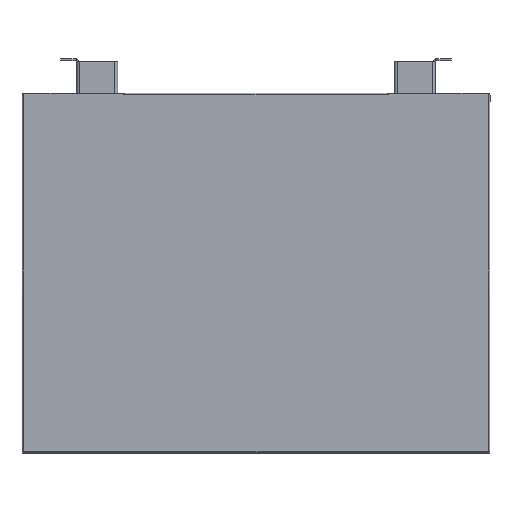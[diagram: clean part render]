
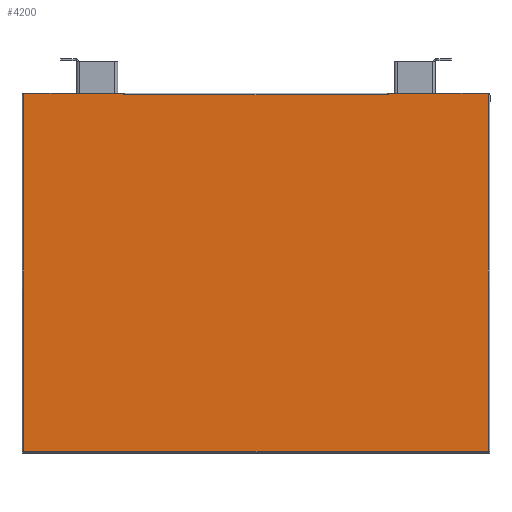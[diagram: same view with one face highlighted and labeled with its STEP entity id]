
A CAD part, top view. The second image highlights one B-rep face of the part: STEP entity #4200.
In plain terms, the highlighted planar face has unit normal (0, 0, 1) as drawn and (0, -1, 0) by its records, which use the part's own axes.
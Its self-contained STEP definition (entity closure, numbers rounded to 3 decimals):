
#169=LINE('',#6591,#559);
#170=LINE('',#6593,#560);
#171=LINE('',#6595,#561);
#172=LINE('',#6597,#562);
#173=LINE('',#6599,#563);
#174=LINE('',#6601,#564);
#175=LINE('',#6603,#565);
#176=LINE('',#6605,#566);
#177=LINE('',#6607,#567);
#178=LINE('',#6609,#568);
#179=LINE('',#6611,#569);
#180=LINE('',#6613,#570);
#559=VECTOR('',#5188,1000.);
#560=VECTOR('',#5191,1000.);
#561=VECTOR('',#5192,1000.);
#562=VECTOR('',#5193,1000.);
#563=VECTOR('',#5194,1000.);
#564=VECTOR('',#5195,1000.);
#565=VECTOR('',#5196,1000.);
#566=VECTOR('',#5197,1000.);
#567=VECTOR('',#5198,1000.);
#568=VECTOR('',#5199,1000.);
#569=VECTOR('',#5200,1000.);
#570=VECTOR('',#5201,1000.);
#957=PLANE('',#4530);
#1411=ORIENTED_EDGE('',*,*,#2418,.F.);
#1412=ORIENTED_EDGE('',*,*,#2419,.T.);
#1413=ORIENTED_EDGE('',*,*,#2420,.T.);
#1414=ORIENTED_EDGE('',*,*,#2421,.T.);
#1415=ORIENTED_EDGE('',*,*,#2422,.T.);
#1416=ORIENTED_EDGE('',*,*,#2423,.T.);
#1417=ORIENTED_EDGE('',*,*,#2424,.T.);
#1418=ORIENTED_EDGE('',*,*,#2425,.T.);
#1419=ORIENTED_EDGE('',*,*,#2426,.T.);
#1420=ORIENTED_EDGE('',*,*,#2427,.F.);
#1421=ORIENTED_EDGE('',*,*,#2428,.F.);
#1422=ORIENTED_EDGE('',*,*,#2429,.T.);
#2418=EDGE_CURVE('',#2954,#2952,#169,.T.);
#2419=EDGE_CURVE('',#2954,#2955,#170,.T.);
#2420=EDGE_CURVE('',#2955,#2956,#171,.T.);
#2421=EDGE_CURVE('',#2956,#2957,#172,.T.);
#2422=EDGE_CURVE('',#2957,#2958,#173,.T.);
#2423=EDGE_CURVE('',#2958,#2959,#174,.T.);
#2424=EDGE_CURVE('',#2959,#2960,#175,.T.);
#2425=EDGE_CURVE('',#2960,#2961,#176,.T.);
#2426=EDGE_CURVE('',#2961,#2962,#177,.T.);
#2427=EDGE_CURVE('',#2963,#2962,#178,.T.);
#2428=EDGE_CURVE('',#2964,#2963,#179,.T.);
#2429=EDGE_CURVE('',#2964,#2952,#180,.T.);
#2952=VERTEX_POINT('',#6586);
#2954=VERTEX_POINT('',#6590);
#2955=VERTEX_POINT('',#6594);
#2956=VERTEX_POINT('',#6596);
#2957=VERTEX_POINT('',#6598);
#2958=VERTEX_POINT('',#6600);
#2959=VERTEX_POINT('',#6602);
#2960=VERTEX_POINT('',#6604);
#2961=VERTEX_POINT('',#6606);
#2962=VERTEX_POINT('',#6608);
#2963=VERTEX_POINT('',#6610);
#2964=VERTEX_POINT('',#6612);
#3486=EDGE_LOOP('',(#1411,#1412,#1413,#1414,#1415,#1416,#1417,#1418,#1419,
#1420,#1421,#1422));
#3778=FACE_BOUND('',#3486,.T.);
#4200=ADVANCED_FACE('',(#3778),#957,.T.);
#4530=AXIS2_PLACEMENT_3D('',#6592,#5189,#5190);
#5188=DIRECTION('',(-1.,0.,0.));
#5189=DIRECTION('',(0.,-1.,0.));
#5190=DIRECTION('',(0.,0.,-1.));
#5191=DIRECTION('',(0.,0.,-1.));
#5192=DIRECTION('',(1.,0.,0.));
#5193=DIRECTION('',(0.,0.,1.));
#5194=DIRECTION('',(0.,0.,1.));
#5195=DIRECTION('',(-1.,0.,0.));
#5196=DIRECTION('',(0.,0.,-1.));
#5197=DIRECTION('',(0.,0.,-1.));
#5198=DIRECTION('',(1.,0.,0.));
#5199=DIRECTION('',(0.,0.,-1.));
#5200=DIRECTION('',(-1.,0.,0.));
#5201=DIRECTION('',(1.,0.,0.));
#6586=CARTESIAN_POINT('',(161.925,0.,-218.973));
#6590=CARTESIAN_POINT('',(163.449,0.,-218.973));
#6591=CARTESIAN_POINT('',(-163.449,0.,-218.973));
#6592=CARTESIAN_POINT('',(0.,0.,0.));
#6593=CARTESIAN_POINT('',(163.449,0.,-221.158));
#6594=CARTESIAN_POINT('',(163.449,0.,-221.158));
#6595=CARTESIAN_POINT('',(-288.925,0.,-221.158));
#6596=CARTESIAN_POINT('',(286.741,0.,-221.158));
#6597=CARTESIAN_POINT('',(286.741,0.,-221.158));
#6598=CARTESIAN_POINT('',(286.741,0.,-218.973));
#6599=CARTESIAN_POINT('',(286.741,0.,-221.158));
#6600=CARTESIAN_POINT('',(286.741,0.,221.158));
#6601=CARTESIAN_POINT('',(288.925,0.,221.158));
#6602=CARTESIAN_POINT('',(-286.741,0.,221.158));
#6603=CARTESIAN_POINT('',(-286.741,0.,221.158));
#6604=CARTESIAN_POINT('',(-286.741,0.,-218.973));
#6605=CARTESIAN_POINT('',(-286.741,0.,221.158));
#6606=CARTESIAN_POINT('',(-286.741,0.,-221.158));
#6607=CARTESIAN_POINT('',(-288.925,0.,-221.158));
#6608=CARTESIAN_POINT('',(-163.449,0.,-221.158));
#6609=CARTESIAN_POINT('',(-163.449,0.,-221.158));
#6610=CARTESIAN_POINT('',(-163.449,0.,-218.973));
#6611=CARTESIAN_POINT('',(-163.449,0.,-218.973));
#6612=CARTESIAN_POINT('',(-161.925,0.,-218.973));
#6613=CARTESIAN_POINT('',(-161.925,0.,-218.973));
